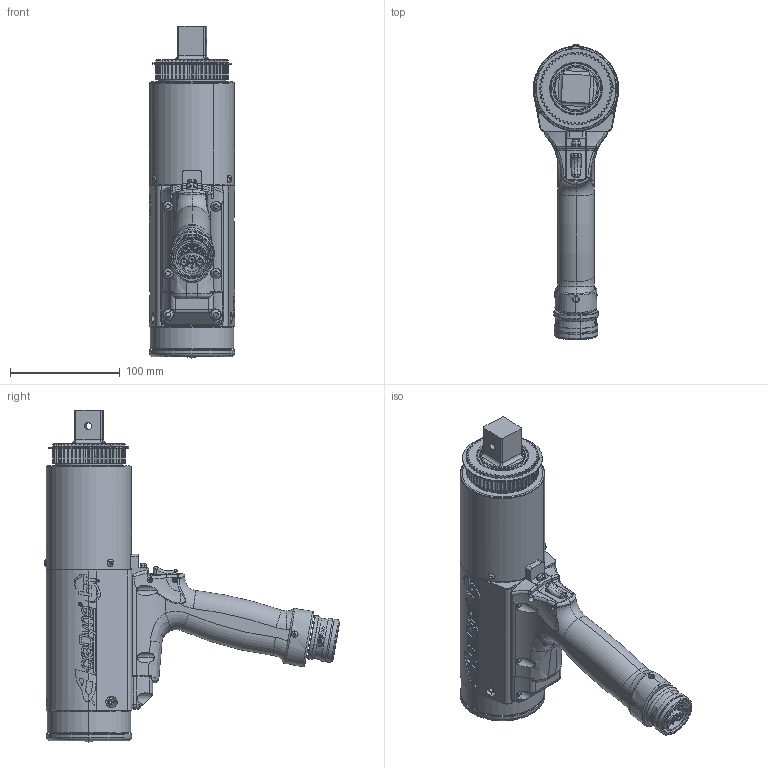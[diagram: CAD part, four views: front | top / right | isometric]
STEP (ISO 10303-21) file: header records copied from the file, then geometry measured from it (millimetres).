
FILE_DESCRIPTION (( 'STEP AP214' ), '1' );
FILE_NAME ('AEP4A771000B.STEP', '2022-07-18T22:09:43', ( '' ), ( '' ), 'SwSTEP 2.0', 'SolidWorks 2022', '' );
FILE_SCHEMA (( 'AUTOMOTIVE_DESIGN' ));
Length unit declared in the file: inch
Products named in the file (1): AEP4A771000B
Bounding box: 77.47 x 268.69 x 301.94 mm (x, y, z)
Surface area: 168925.9 mm2 (no closed solid volume)
Topology: 0 solids, 71 shells, 1178 faces, 4622 edges, 3339 vertices
Faces by surface type: cylinder 362, plane 341, bspline 214, torus 136, cone 113, sphere 12
Entity records: 120134 total; most frequent: CARTESIAN_POINT 70616, ORIENTED_EDGE 7188, DIRECTION 6006, EDGE_CURVE 4618, VERTEX_POINT 3339, AXIS2_PLACEMENT_3D 2196, VECTOR 1614, LINE 1614
